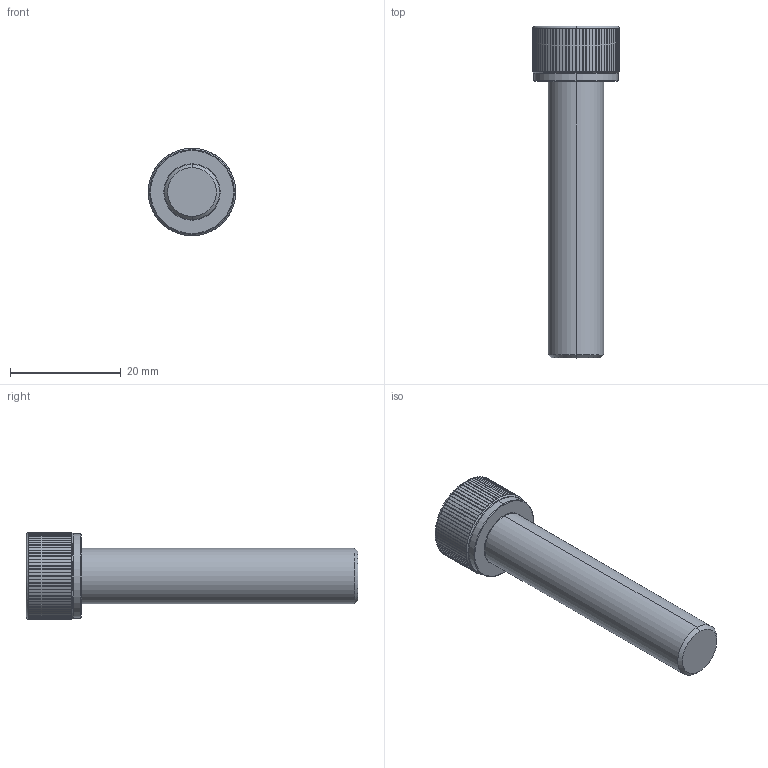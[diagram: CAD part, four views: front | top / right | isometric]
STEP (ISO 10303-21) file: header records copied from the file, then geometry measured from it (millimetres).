
FILE_DESCRIPTION (( 'STEP AP203' ), '1' );
FILE_NAME ('LGDT-304-M10x50.STEP', '2026-08-10T07:25:32', ( '' ), ( '' ), 'SwSTEP 2.0', 'SolidWorks 2020', '' );
FILE_SCHEMA (( 'CONFIG_CONTROL_DESIGN' ));
Length unit declared in the file: millimetre
Products named in the file (1): LGDT-304-M10x50
Bounding box: 15.8 x 60 x 15.8 mm (x, y, z)
Volume: 5522.1 mm3; surface area: 2587.9 mm2
Topology: 1 solids, 1 shells, 204 faces, 576 edges, 376 vertices
Faces by surface type: cylinder 175, cone 11, plane 10, torus 8
Entity records: 8367 total; most frequent: CARTESIAN_POINT 3208, ORIENTED_EDGE 1152, DIRECTION 988, EDGE_CURVE 576, AXIS2_PLACEMENT_3D 398, VERTEX_POINT 376, EDGE_LOOP 206, ADVANCED_FACE 204
